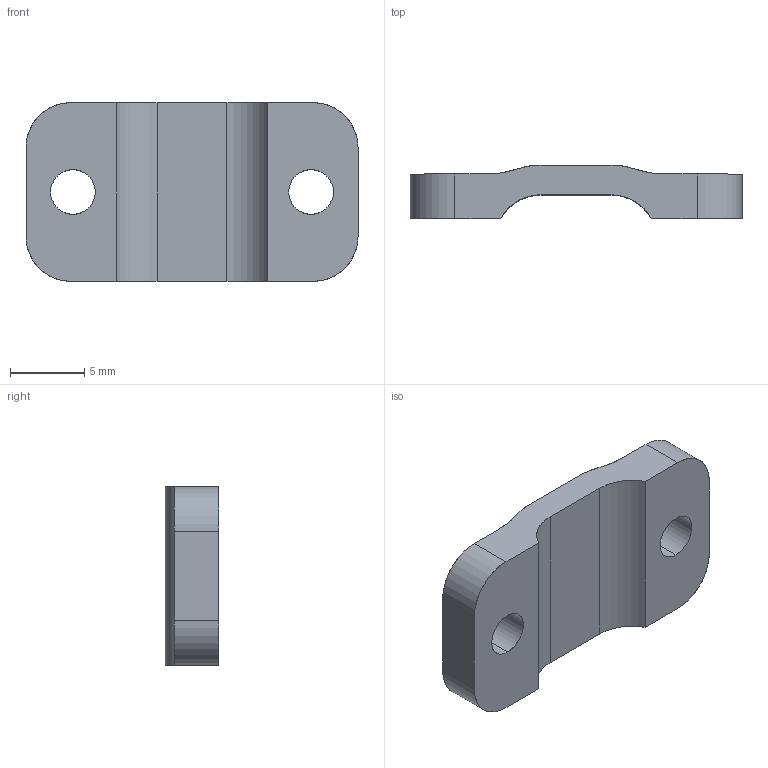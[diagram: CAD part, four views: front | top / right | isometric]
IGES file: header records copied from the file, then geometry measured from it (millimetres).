
Start section: SolidWorks IGES file using analytic representation for surfaces
Global section: file name: G:\My Drive\Bubble Gripper Doc Update\punyo.tech parts\V1.1\Pressure Sensor Strain Relief Clamp.IGS; native system: SolidWorks 2022; preprocessor: SolidWorks 2022; author: Jarod Wilson; date: 230329.154644; units: millimetre
Bounding box: 22.3 x 3.6 x 12 mm (x, y, z)
Surface area: 736.6 mm2 (no closed solid volume)
Topology: 0 solids, 0 shells, 24 faces, 328 edges, 328 vertices
Faces by surface type: revolution 14, bspline 10
